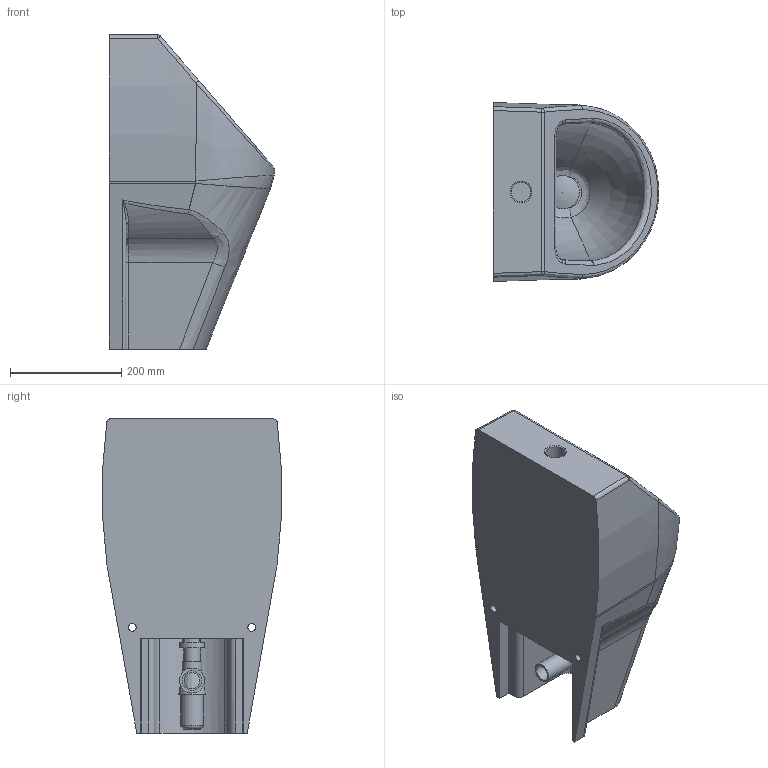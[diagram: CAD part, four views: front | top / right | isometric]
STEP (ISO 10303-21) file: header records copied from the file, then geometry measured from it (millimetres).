
FILE_DESCRIPTION((''),'2;1');
FILE_NAME('C:\Users\Administrator\Desktop\NEWS 2015 Step 1\D-CODE\3d\stp\082830.stp','2015-05-21T14:11:14',('Administrator'),(''),'Autodesk Inventor 2011','Autodesk Inventor 2011','');
FILE_SCHEMA(('CONFIG_CONTROL_DESIGN'));
Length unit declared in the file: millimetre
Products named in the file (6): 082830; Stopfen; Urinal_Stopfen; Siphon Urinal D-CODE; Anschlussrohr Siphon Urinal D-CODE
Assembly tree (5 placements, depth 2):
  082830
    082830
    Stopfen
    Urinal_Stopfen
    Siphon Urinal D-CODE
    Anschlussrohr Siphon Urinal D-CODE
Bounding box: 297.57 x 321.91 x 565 mm (x, y, z)
Volume: 16416957.9 mm3; surface area: 877253.4 mm2
Topology: 5 solids, 5 shells, 181 faces, 439 edges, 272 vertices
Faces by surface type: bspline 75, plane 46, cylinder 41, torus 14, sphere 4, cone 1
Full cylindrical faces by diameter (mm): 14 x2, 20 x1, 21.886 x1, 28 x1, 28.749 x1, 29 x1, 34.55 x1, 35 x4, 40.754 x1, 45 x2, 49.67 x1, 52 x1, 57.275 x1, 60 x1
Entity records: 9685 total; most frequent: CARTESIAN_POINT 5896, ORIENTED_EDGE 806, DIRECTION 600, EDGE_CURVE 403, VERTEX_POINT 266, AXIS2_PLACEMENT_3D 255, EDGE_LOOP 223, FACE_OUTER_BOUND 181
